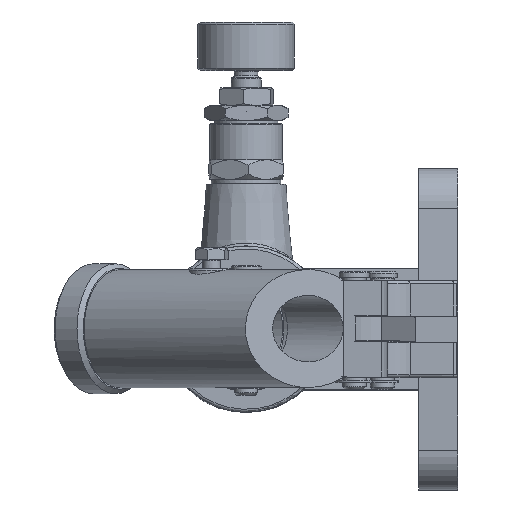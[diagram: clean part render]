
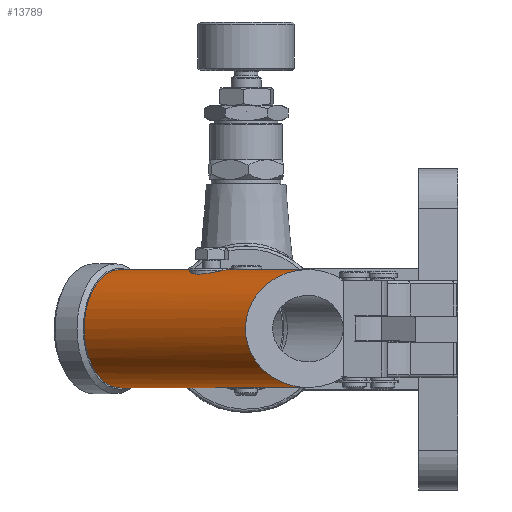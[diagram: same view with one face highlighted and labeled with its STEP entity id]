
A CAD part, top view. The second image highlights one B-rep face of the part: STEP entity #13789.
In plain terms, the highlighted cylindrical face has radius 19.5 mm (diameter 39 mm), a partial arc.
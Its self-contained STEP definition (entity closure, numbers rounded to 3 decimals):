
#24=ELLIPSE('',#14626,20.751,19.5);
#25=ELLIPSE('',#14637,20.751,19.5);
#26=ELLIPSE('',#14645,20.751,19.5);
#27=ELLIPSE('',#14647,22.517,19.5);
#28=ELLIPSE('',#14648,20.751,19.5);
#193=B_SPLINE_CURVE_WITH_KNOTS('',3,(#21054,#21055,#21056,#21057,#21058,
#21059),.UNSPECIFIED.,.F.,.F.,(4,1,1,4),(0.039,0.043,
0.045,0.047),.UNSPECIFIED.);
#194=B_SPLINE_CURVE_WITH_KNOTS('',3,(#21061,#21062,#21063,#21064,#21065),
 .UNSPECIFIED.,.F.,.F.,(4,1,4),(0.032,0.036,0.039),
 .UNSPECIFIED.);
#195=B_SPLINE_CURVE_WITH_KNOTS('',3,(#21067,#21068,#21069,#21070,#21071,
#21072,#21073),.UNSPECIFIED.,.F.,.F.,(4,1,1,1,4),(0.015,0.019,
0.024,0.028,0.032),.UNSPECIFIED.);
#196=B_SPLINE_CURVE_WITH_KNOTS('',3,(#21075,#21076,#21077,#21078,#21079),
 .UNSPECIFIED.,.F.,.F.,(4,1,4),(0.009,0.012,0.015),
 .UNSPECIFIED.);
#197=B_SPLINE_CURVE_WITH_KNOTS('',3,(#21081,#21082,#21083,#21084,#21085),
 .UNSPECIFIED.,.F.,.F.,(4,1,4),(0.,0.004,0.009),
 .UNSPECIFIED.);
#507=LINE('',#20978,#1034);
#508=LINE('',#20980,#1035);
#520=LINE('',#21014,#1047);
#532=LINE('',#21047,#1059);
#533=LINE('',#21051,#1060);
#534=LINE('',#21086,#1061);
#535=LINE('',#21090,#1062);
#1034=VECTOR('',#16318,1000.);
#1035=VECTOR('',#16319,1000.);
#1047=VECTOR('',#16355,1000.);
#1059=VECTOR('',#16389,1000.);
#1060=VECTOR('',#16392,1000.);
#1061=VECTOR('',#16395,1000.);
#1062=VECTOR('',#16398,1000.);
#2488=ORIENTED_EDGE('',*,*,#4852,.F.);
#2489=ORIENTED_EDGE('',*,*,#4866,.T.);
#2490=ORIENTED_EDGE('',*,*,#4867,.T.);
#2491=ORIENTED_EDGE('',*,*,#4868,.T.);
#2492=ORIENTED_EDGE('',*,*,#4869,.F.);
#2493=ORIENTED_EDGE('',*,*,#4870,.T.);
#2494=ORIENTED_EDGE('',*,*,#4834,.F.);
#2495=ORIENTED_EDGE('',*,*,#4871,.F.);
#2496=ORIENTED_EDGE('',*,*,#4872,.F.);
#2497=ORIENTED_EDGE('',*,*,#4873,.F.);
#2498=ORIENTED_EDGE('',*,*,#4874,.F.);
#2499=ORIENTED_EDGE('',*,*,#4875,.F.);
#2500=ORIENTED_EDGE('',*,*,#4833,.F.);
#2501=ORIENTED_EDGE('',*,*,#4841,.F.);
#2502=ORIENTED_EDGE('',*,*,#4876,.T.);
#2503=ORIENTED_EDGE('',*,*,#4877,.T.);
#2504=ORIENTED_EDGE('',*,*,#4878,.T.);
#2505=ORIENTED_EDGE('',*,*,#4854,.F.);
#4833=EDGE_CURVE('',#6098,#6099,#507,.F.);
#4834=EDGE_CURVE('',#6099,#6100,#508,.F.);
#4841=EDGE_CURVE('',#6103,#6098,#24,.T.);
#4852=EDGE_CURVE('',#6109,#6110,#520,.T.);
#4854=EDGE_CURVE('',#6110,#6111,#25,.T.);
#4866=EDGE_CURVE('',#6109,#6119,#26,.T.);
#4867=EDGE_CURVE('',#6119,#6120,#532,.F.);
#4868=EDGE_CURVE('',#6120,#6121,#27,.T.);
#4869=EDGE_CURVE('',#6122,#6121,#533,.F.);
#4870=EDGE_CURVE('',#6122,#6100,#28,.T.);
#4871=EDGE_CURVE('',#6123,#6099,#193,.T.);
#4872=EDGE_CURVE('',#6124,#6123,#194,.T.);
#4873=EDGE_CURVE('',#6125,#6124,#195,.T.);
#4874=EDGE_CURVE('',#6126,#6125,#196,.T.);
#4875=EDGE_CURVE('',#6099,#6126,#197,.T.);
#4876=EDGE_CURVE('',#6103,#6127,#534,.T.);
#4877=EDGE_CURVE('',#6127,#6128,#6978,.T.);
#4878=EDGE_CURVE('',#6128,#6111,#535,.F.);
#6098=VERTEX_POINT('',#20977);
#6099=VERTEX_POINT('',#20979);
#6100=VERTEX_POINT('',#20981);
#6103=VERTEX_POINT('',#20991);
#6109=VERTEX_POINT('',#21013);
#6110=VERTEX_POINT('',#21015);
#6111=VERTEX_POINT('',#21019);
#6119=VERTEX_POINT('',#21044);
#6120=VERTEX_POINT('',#21048);
#6121=VERTEX_POINT('',#21050);
#6122=VERTEX_POINT('',#21052);
#6123=VERTEX_POINT('',#21060);
#6124=VERTEX_POINT('',#21066);
#6125=VERTEX_POINT('',#21074);
#6126=VERTEX_POINT('',#21080);
#6127=VERTEX_POINT('',#21087);
#6128=VERTEX_POINT('',#21089);
#6978=CIRCLE('',#14649,19.5);
#7707=EDGE_LOOP('',(#2488,#2489,#2490,#2491,#2492,#2493,#2494,#2495,#2496,
#2497,#2498,#2499,#2500,#2501,#2502,#2503,#2504,#2505));
#8731=FACE_BOUND('',#7707,.T.);
#9512=CYLINDRICAL_SURFACE('',#14646,19.5);
#13789=ADVANCED_FACE('',(#8731),#9512,.T.);
#14626=AXIS2_PLACEMENT_3D('',#20992,#16329,#16330);
#14637=AXIS2_PLACEMENT_3D('',#21018,#16359,#16360);
#14645=AXIS2_PLACEMENT_3D('',#21045,#16385,#16386);
#14646=AXIS2_PLACEMENT_3D('',#21046,#16387,#16388);
#14647=AXIS2_PLACEMENT_3D('',#21049,#16390,#16391);
#14648=AXIS2_PLACEMENT_3D('',#21053,#16393,#16394);
#14649=AXIS2_PLACEMENT_3D('',#21088,#16396,#16397);
#16318=DIRECTION('',(-0.804,0.,-0.595));
#16319=DIRECTION('',(-0.804,0.,-0.595));
#16329=DIRECTION('',(0.552,0.,0.834));
#16330=DIRECTION('',(-0.834,0.,0.552));
#16355=DIRECTION('',(-0.804,0.,-0.595));
#16359=DIRECTION('',(0.552,0.,0.834));
#16360=DIRECTION('',(-0.834,0.,0.552));
#16385=DIRECTION('',(0.959,0.,0.284));
#16386=DIRECTION('',(0.284,0.,-0.959));
#16387=DIRECTION('',(-0.804,0.,-0.595));
#16388=DIRECTION('',(0.595,0.,-0.804));
#16389=DIRECTION('',(-0.804,0.,-0.595));
#16390=DIRECTION('',(-0.399,0.,-0.917));
#16391=DIRECTION('',(-0.917,0.,0.399));
#16392=DIRECTION('',(-0.804,0.,-0.595));
#16393=DIRECTION('',(0.959,0.,0.284));
#16394=DIRECTION('',(0.284,0.,-0.959));
#16395=DIRECTION('',(-0.804,0.,-0.595));
#16396=DIRECTION('',(0.804,0.,0.595));
#16397=DIRECTION('',(-0.595,0.,0.804));
#16398=DIRECTION('',(-0.804,0.,-0.595));
#20977=CARTESIAN_POINT('',(-36.577,18.,187.319));
#20978=CARTESIAN_POINT('',(30.052,18.,236.601));
#20979=CARTESIAN_POINT('',(-6.931,18.,209.247));
#20980=CARTESIAN_POINT('',(30.052,18.,236.601));
#20981=CARTESIAN_POINT('',(4.631,18.,217.798));
#20991=CARTESIAN_POINT('',(-27.261,7.5,181.15));
#20992=CARTESIAN_POINT('',(-43.232,0.,191.726));
#21013=CARTESIAN_POINT('',(4.631,-18.,217.798));
#21014=CARTESIAN_POINT('',(30.052,-18.,236.601));
#21015=CARTESIAN_POINT('',(-36.577,-18.,187.319));
#21018=CARTESIAN_POINT('',(-43.232,0.,191.726));
#21019=CARTESIAN_POINT('',(-27.261,-7.5,181.15));
#21044=CARTESIAN_POINT('',(5.732,-16.,214.077));
#21045=CARTESIAN_POINT('',(2.365,0.,225.451));
#21046=CARTESIAN_POINT('',(25.592,0.,242.631));
#21047=CARTESIAN_POINT('',(32.22,-16.,233.669));
#21048=CARTESIAN_POINT('',(32.22,-16.,233.669));
#21049=CARTESIAN_POINT('',(20.418,0.,238.804));
#21050=CARTESIAN_POINT('',(32.22,16.,233.669));
#21051=CARTESIAN_POINT('',(32.22,16.,233.669));
#21052=CARTESIAN_POINT('',(5.732,16.,214.077));
#21053=CARTESIAN_POINT('',(2.365,0.,225.451));
#21054=CARTESIAN_POINT('',(-4.054,19.25,216.832));
#21055=CARTESIAN_POINT('',(-3.758,19.04,215.435));
#21056=CARTESIAN_POINT('',(-3.926,18.556,213.231));
#21057=CARTESIAN_POINT('',(-5.325,18.089,210.695));
#21058=CARTESIAN_POINT('',(-6.344,18.,209.681));
#21059=CARTESIAN_POINT('',(-6.931,18.,209.247));
#21060=CARTESIAN_POINT('',(-4.054,19.25,216.832));
#21061=CARTESIAN_POINT('',(-7.756,19.25,221.837));
#21062=CARTESIAN_POINT('',(-6.82,19.407,221.318));
#21063=CARTESIAN_POINT('',(-5.175,19.593,219.879));
#21064=CARTESIAN_POINT('',(-4.274,19.406,217.87));
#21065=CARTESIAN_POINT('',(-4.054,19.25,216.832));
#21066=CARTESIAN_POINT('',(-7.756,19.25,221.837));
#21067=CARTESIAN_POINT('',(-18.728,19.25,213.721));
#21068=CARTESIAN_POINT('',(-19.026,19.039,215.127));
#21069=CARTESIAN_POINT('',(-18.805,18.392,218.04));
#21070=CARTESIAN_POINT('',(-16.115,17.804,221.651));
#21071=CARTESIAN_POINT('',(-11.864,18.392,223.177));
#21072=CARTESIAN_POINT('',(-9.015,19.038,222.534));
#21073=CARTESIAN_POINT('',(-7.756,19.25,221.837));
#21074=CARTESIAN_POINT('',(-18.728,19.25,213.721));
#21075=CARTESIAN_POINT('',(-15.026,19.25,208.716));
#21076=CARTESIAN_POINT('',(-15.95,19.405,209.228));
#21077=CARTESIAN_POINT('',(-17.607,19.594,210.673));
#21078=CARTESIAN_POINT('',(-18.507,19.407,212.677));
#21079=CARTESIAN_POINT('',(-18.728,19.25,213.721));
#21080=CARTESIAN_POINT('',(-15.026,19.25,208.716));
#21081=CARTESIAN_POINT('',(-6.931,18.,209.247));
#21082=CARTESIAN_POINT('',(-8.106,18.,208.378));
#21083=CARTESIAN_POINT('',(-10.899,18.39,207.38));
#21084=CARTESIAN_POINT('',(-13.783,19.041,208.027));
#21085=CARTESIAN_POINT('',(-15.026,19.25,208.716));
#21086=CARTESIAN_POINT('',(36.296,7.5,228.159));
#21087=CARTESIAN_POINT('',(-31.239,7.5,178.208));
#21088=CARTESIAN_POINT('',(-41.942,0.,192.68));
#21089=CARTESIAN_POINT('',(-31.239,-7.5,178.208));
#21090=CARTESIAN_POINT('',(36.296,-7.5,228.159));
